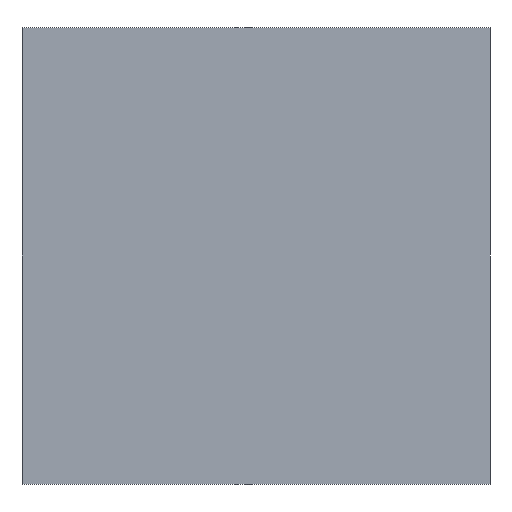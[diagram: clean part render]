
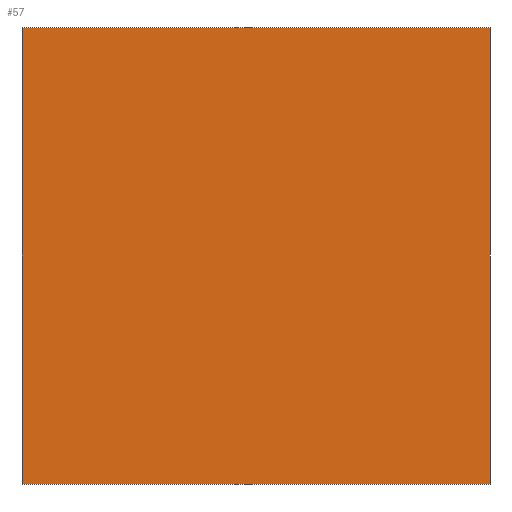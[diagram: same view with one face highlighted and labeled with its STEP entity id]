
A CAD part, front view. The second image highlights one B-rep face of the part: STEP entity #57.
In plain terms, the highlighted planar face has unit normal (0, -1, 0).
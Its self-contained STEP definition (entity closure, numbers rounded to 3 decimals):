
#10 = CARTESIAN_POINT ( 'NONE',  ( -10., -10., 0. ) ) ;
#15 = ORIENTED_EDGE ( 'NONE', *, *, #217, .F. ) ;
#20 = CARTESIAN_POINT ( 'NONE',  ( 30.5, -10., 39.5 ) ) ;
#25 = CARTESIAN_POINT ( 'NONE',  ( 30.5, -10., 0. ) ) ;
#29 = DIRECTION ( 'NONE',  ( 0., 0., -1. ) ) ;
#43 = DIRECTION ( 'NONE',  ( 0., 0., 1. ) ) ;
#46 = DIRECTION ( 'NONE',  ( 0., 1., 0. ) ) ;
#54 = DIRECTION ( 'NONE',  ( 1., 0., 0. ) ) ;
#55 = VECTOR ( 'NONE', #110, 1000. ) ;
#57 = ADVANCED_FACE ( 'NONE', ( #159 ), #166, .F. ) ;
#71 = CARTESIAN_POINT ( 'NONE',  ( -10., -10., 39.5 ) ) ;
#80 = EDGE_LOOP ( 'NONE', ( #157, #15, #114, #82 ) ) ;
#82 = ORIENTED_EDGE ( 'NONE', *, *, #230, .T. ) ;
#90 = DIRECTION ( 'NONE',  ( 0., 0., -1. ) ) ;
#102 = VECTOR ( 'NONE', #90, 1000. ) ;
#109 = LINE ( 'NONE', #168, #144 ) ;
#110 = DIRECTION ( 'NONE',  ( 1., 0., 0. ) ) ;
#114 = ORIENTED_EDGE ( 'NONE', *, *, #133, .F. ) ;
#119 = AXIS2_PLACEMENT_3D ( 'NONE', #71, #46, #43 ) ;
#124 = VERTEX_POINT ( 'NONE', #220 ) ;
#129 = CARTESIAN_POINT ( 'NONE',  ( -10., -10., 0. ) ) ;
#130 = LINE ( 'NONE', #176, #212 ) ;
#133 = EDGE_CURVE ( 'NONE', #124, #175, #109, .T. ) ;
#144 = VECTOR ( 'NONE', #54, 1000. ) ;
#157 = ORIENTED_EDGE ( 'NONE', *, *, #194, .T. ) ;
#159 = FACE_OUTER_BOUND ( 'NONE', #80, .T. ) ;
#166 = PLANE ( 'NONE',  #119 ) ;
#168 = CARTESIAN_POINT ( 'NONE',  ( -10., -10., 39.5 ) ) ;
#172 = VERTEX_POINT ( 'NONE', #25 ) ;
#175 = VERTEX_POINT ( 'NONE', #20 ) ;
#176 = CARTESIAN_POINT ( 'NONE',  ( 30.5, -10., 39.5 ) ) ;
#192 = LINE ( 'NONE', #10, #55 ) ;
#194 = EDGE_CURVE ( 'NONE', #223, #172, #192, .T. ) ;
#211 = LINE ( 'NONE', #233, #102 ) ;
#212 = VECTOR ( 'NONE', #29, 1000. ) ;
#217 = EDGE_CURVE ( 'NONE', #175, #172, #130, .T. ) ;
#220 = CARTESIAN_POINT ( 'NONE',  ( -10., -10., 39.5 ) ) ;
#223 = VERTEX_POINT ( 'NONE', #129 ) ;
#230 = EDGE_CURVE ( 'NONE', #124, #223, #211, .T. ) ;
#233 = CARTESIAN_POINT ( 'NONE',  ( -10., -10., 39.5 ) ) ;
